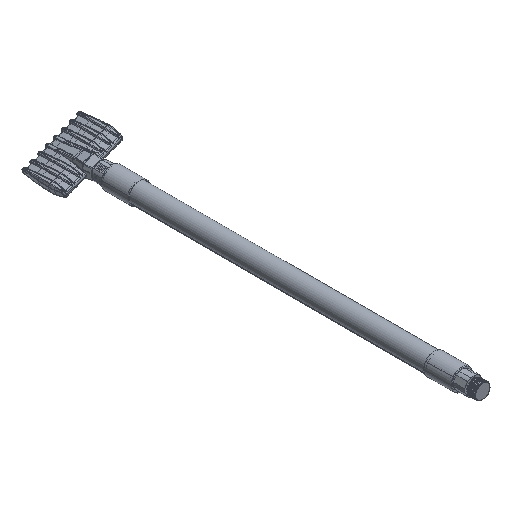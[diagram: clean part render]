
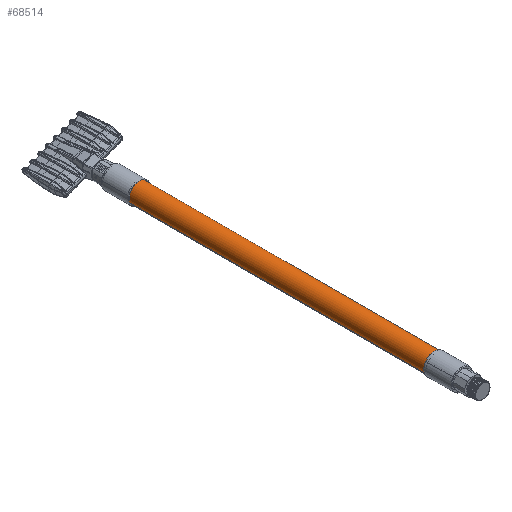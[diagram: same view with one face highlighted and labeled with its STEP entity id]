
A CAD part, isometric view. The second image highlights one B-rep face of the part: STEP entity #68514.
In plain terms, the highlighted cylindrical face has radius 10.4 mm (diameter 20.8 mm), a partial arc.
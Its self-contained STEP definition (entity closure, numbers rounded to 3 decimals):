
#1057 = VERTEX_POINT ( 'NONE', #79775 ) ;
#4026 = ORIENTED_EDGE ( 'NONE', *, *, #85518, .T. ) ;
#6297 = DIRECTION ( 'NONE',  ( 0., -1., 0. ) ) ;
#6398 = EDGE_CURVE ( 'NONE', #87668, #1057, #23375, .T. ) ;
#8385 = CIRCLE ( 'NONE', #71526, 10.4 ) ;
#8705 = EDGE_CURVE ( 'NONE', #22329, #15480, #55088, .T. ) ;
#13826 = CARTESIAN_POINT ( 'NONE',  ( 0., 0., 0. ) ) ;
#14501 = CYLINDRICAL_SURFACE ( 'NONE', #58486, 10.4 ) ;
#15480 = VERTEX_POINT ( 'NONE', #27216 ) ;
#17893 = CARTESIAN_POINT ( 'NONE',  ( 0., 370., 10.4 ) ) ;
#19049 = CIRCLE ( 'NONE', #36645, 10.4 ) ;
#19229 = VECTOR ( 'NONE', #6297, 1000. ) ;
#21554 = CARTESIAN_POINT ( 'NONE',  ( 0., 370., 10.4 ) ) ;
#22329 = VERTEX_POINT ( 'NONE', #78997 ) ;
#23375 = LINE ( 'NONE', #21554, #89638 ) ;
#27216 = CARTESIAN_POINT ( 'NONE',  ( 0., 0., -10.4 ) ) ;
#28171 = DIRECTION ( 'NONE',  ( 0., 1., 0. ) ) ;
#36645 = AXIS2_PLACEMENT_3D ( 'NONE', #13826, #69908, #66652 ) ;
#41165 = DIRECTION ( 'NONE',  ( 0., -1., 0. ) ) ;
#42193 = ORIENTED_EDGE ( 'NONE', *, *, #8705, .F. ) ;
#52540 = EDGE_LOOP ( 'NONE', ( #71704, #67644, #4026, #42193 ) ) ;
#55088 = LINE ( 'NONE', #90994, #19229 ) ;
#55459 = FACE_OUTER_BOUND ( 'NONE', #52540, .T. ) ;
#57001 = DIRECTION ( 'NONE',  ( 0., -1., 0. ) ) ;
#58486 = AXIS2_PLACEMENT_3D ( 'NONE', #70134, #41165, #64153 ) ;
#60582 = EDGE_CURVE ( 'NONE', #87668, #22329, #8385, .T. ) ;
#64153 = DIRECTION ( 'NONE',  ( 0., 0., -1. ) ) ;
#66652 = DIRECTION ( 'NONE',  ( 0., 0., 1. ) ) ;
#67644 = ORIENTED_EDGE ( 'NONE', *, *, #6398, .T. ) ;
#68514 = ADVANCED_FACE ( 'NONE', ( #55459 ), #14501, .T. ) ;
#69908 = DIRECTION ( 'NONE',  ( 0., 1., 0. ) ) ;
#70134 = CARTESIAN_POINT ( 'NONE',  ( 0., 370., 0. ) ) ;
#71526 = AXIS2_PLACEMENT_3D ( 'NONE', #78390, #28171, #79297 ) ;
#71704 = ORIENTED_EDGE ( 'NONE', *, *, #60582, .F. ) ;
#78390 = CARTESIAN_POINT ( 'NONE',  ( 0., 370., 0. ) ) ;
#78997 = CARTESIAN_POINT ( 'NONE',  ( 0., 370., -10.4 ) ) ;
#79297 = DIRECTION ( 'NONE',  ( 0., 0., 1. ) ) ;
#79775 = CARTESIAN_POINT ( 'NONE',  ( 0., 0., 10.4 ) ) ;
#85518 = EDGE_CURVE ( 'NONE', #1057, #15480, #19049, .T. ) ;
#87668 = VERTEX_POINT ( 'NONE', #17893 ) ;
#89638 = VECTOR ( 'NONE', #57001, 1000. ) ;
#90994 = CARTESIAN_POINT ( 'NONE',  ( 0., 370., -10.4 ) ) ;
